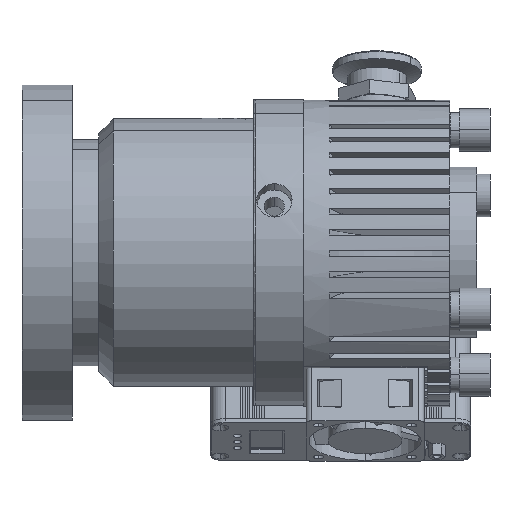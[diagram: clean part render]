
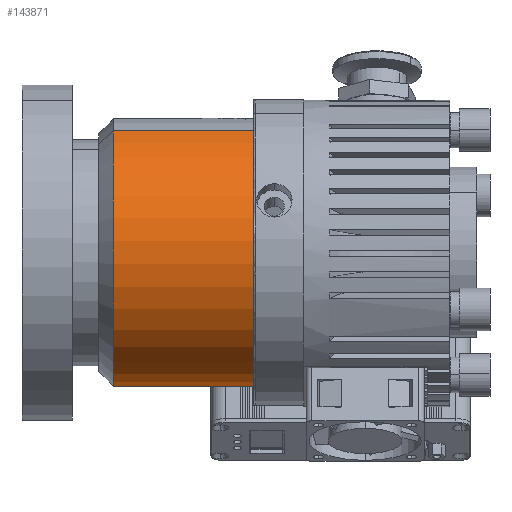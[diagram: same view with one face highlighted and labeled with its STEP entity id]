
A CAD part, left-side view. The second image highlights one B-rep face of the part: STEP entity #143871.
In plain terms, the highlighted cylindrical face has radius 45.5 mm (diameter 91 mm), a partial arc.
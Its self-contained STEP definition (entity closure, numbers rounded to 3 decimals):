
#3349 = CIRCLE ( 'NONE', #89128, 45.5 ) ;
#5473 = VERTEX_POINT ( 'NONE', #195562 ) ;
#6110 = LINE ( 'NONE', #213342, #48595 ) ;
#9557 = EDGE_LOOP ( 'NONE', ( #26968, #152771, #64969, #204403 ) ) ;
#14660 = VECTOR ( 'NONE', #228200, 1000. ) ;
#15573 = AXIS2_PLACEMENT_3D ( 'NONE', #189486, #155664, #209016 ) ;
#26968 = ORIENTED_EDGE ( 'NONE', *, *, #52726, .T. ) ;
#48595 = VECTOR ( 'NONE', #177343, 1000. ) ;
#52726 = EDGE_CURVE ( 'NONE', #113801, #5473, #3349, .T. ) ;
#53653 = EDGE_CURVE ( 'NONE', #5473, #225075, #6110, .T. ) ;
#53691 = EDGE_CURVE ( 'NONE', #225075, #178808, #138557, .T. ) ;
#54005 = EDGE_CURVE ( 'NONE', #113801, #178808, #62536, .T. ) ;
#62536 = LINE ( 'NONE', #120694, #14660 ) ;
#64969 = ORIENTED_EDGE ( 'NONE', *, *, #53691, .T. ) ;
#74677 = CARTESIAN_POINT ( 'NONE',  ( 0., 17., 45.5 ) ) ;
#75485 = DIRECTION ( 'NONE',  ( 0., 1., 0. ) ) ;
#89128 = AXIS2_PLACEMENT_3D ( 'NONE', #94781, #220483, #112860 ) ;
#94781 = CARTESIAN_POINT ( 'NONE',  ( 0., 64.55, 0. ) ) ;
#112860 = DIRECTION ( 'NONE',  ( 0., 0., -1. ) ) ;
#113801 = VERTEX_POINT ( 'NONE', #219178 ) ;
#120694 = CARTESIAN_POINT ( 'NONE',  ( 0., 0., -45.5 ) ) ;
#135439 = CYLINDRICAL_SURFACE ( 'NONE', #15573, 45.5 ) ;
#138557 = CIRCLE ( 'NONE', #217184, 45.5 ) ;
#143871 = ADVANCED_FACE ( 'NONE', ( #188971 ), #135439, .T. ) ;
#152771 = ORIENTED_EDGE ( 'NONE', *, *, #53653, .T. ) ;
#155664 = DIRECTION ( 'NONE',  ( 0., -1., 0. ) ) ;
#173736 = CARTESIAN_POINT ( 'NONE',  ( 0., 17., -45.5 ) ) ;
#177343 = DIRECTION ( 'NONE',  ( 0., -1., 0. ) ) ;
#178808 = VERTEX_POINT ( 'NONE', #173736 ) ;
#183285 = CARTESIAN_POINT ( 'NONE',  ( 0., 17., 0. ) ) ;
#188971 = FACE_OUTER_BOUND ( 'NONE', #9557, .T. ) ;
#189486 = CARTESIAN_POINT ( 'NONE',  ( 0., 0., 0. ) ) ;
#195562 = CARTESIAN_POINT ( 'NONE',  ( 0., 64.55, 45.5 ) ) ;
#201267 = DIRECTION ( 'NONE',  ( 0., 0., -1. ) ) ;
#204403 = ORIENTED_EDGE ( 'NONE', *, *, #54005, .F. ) ;
#209016 = DIRECTION ( 'NONE',  ( 0., 0., -1. ) ) ;
#213342 = CARTESIAN_POINT ( 'NONE',  ( 0., 0., 45.5 ) ) ;
#217184 = AXIS2_PLACEMENT_3D ( 'NONE', #183285, #75485, #201267 ) ;
#219178 = CARTESIAN_POINT ( 'NONE',  ( 0., 64.55, -45.5 ) ) ;
#220483 = DIRECTION ( 'NONE',  ( 0., -1., 0. ) ) ;
#225075 = VERTEX_POINT ( 'NONE', #74677 ) ;
#228200 = DIRECTION ( 'NONE',  ( 0., -1., 0. ) ) ;
